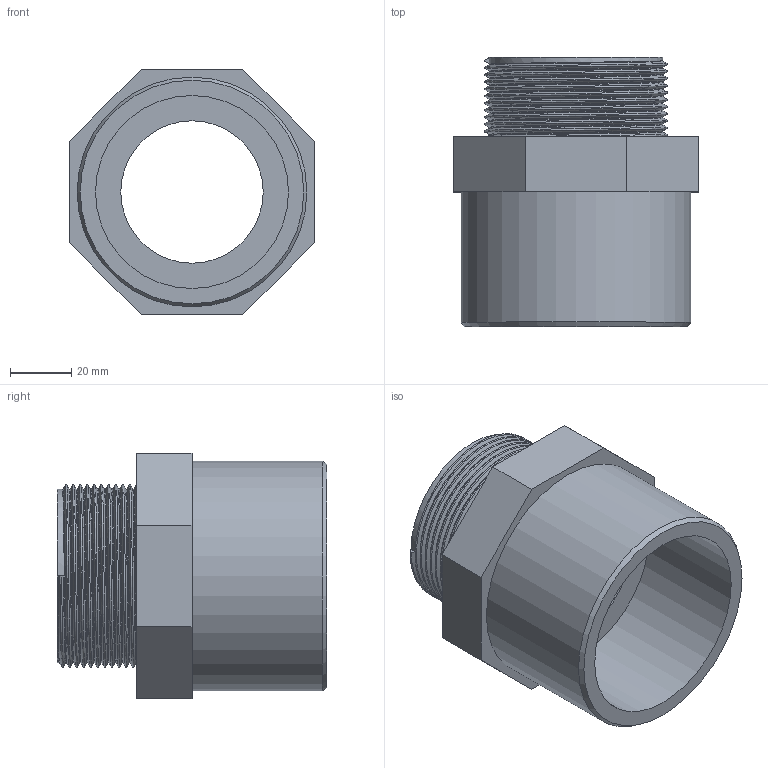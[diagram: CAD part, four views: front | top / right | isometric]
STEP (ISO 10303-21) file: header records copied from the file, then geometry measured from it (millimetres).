
FILE_DESCRIPTION(/* description */ ('PVC adattatore incollaggio-filettatura BSP maschio'),/* implementation_level */ '2;1');
FILE_NAME(/* name */ 'C:\Users\POLYPIPE\Desktop\DATASET INVENTOR\LIBRERIA EFFAST\RACCORDI 3DxWEB\RGR\3D_RGRAMG\3D_RGRAMG063G.stp',/* time_stamp */ '2018-01-19T17:36:43+01:00',/* author */ ('POLYPIPE'),/* organization */ ('Polypipe Italia s.r.l.'),/* preprocessor_version */ 'ST-DEVELOPER v16.1',/* originating_system */ 'Autodesk Inventor 2016',/* authorisation */ '');
FILE_SCHEMA (('CONFIG_CONTROL_DESIGN'));
Length unit declared in the file: millimetre
Products named in the file (1): 3D_RGRAMG
Bounding box: 80 x 88 x 80 mm (x, y, z)
Volume: 152598.7 mm3; surface area: 44953.4 mm2
Topology: 1 solids, 1 shells, 26 faces, 56 edges, 36 vertices
Faces by surface type: plane 15, cylinder 5, bspline 5, cone 1
Full cylindrical faces by diameter (mm): 46.5 x1, 47.5 x1, 56.656 x1, 63 x1, 75 x1
Entity records: 4776 total; most frequent: CARTESIAN_POINT 4223, ORIENTED_EDGE 102, DIRECTION 97, EDGE_CURVE 51, EDGE_LOOP 37, VERTEX_POINT 36, AXIS2_PLACEMENT_3D 35, LINE 27
